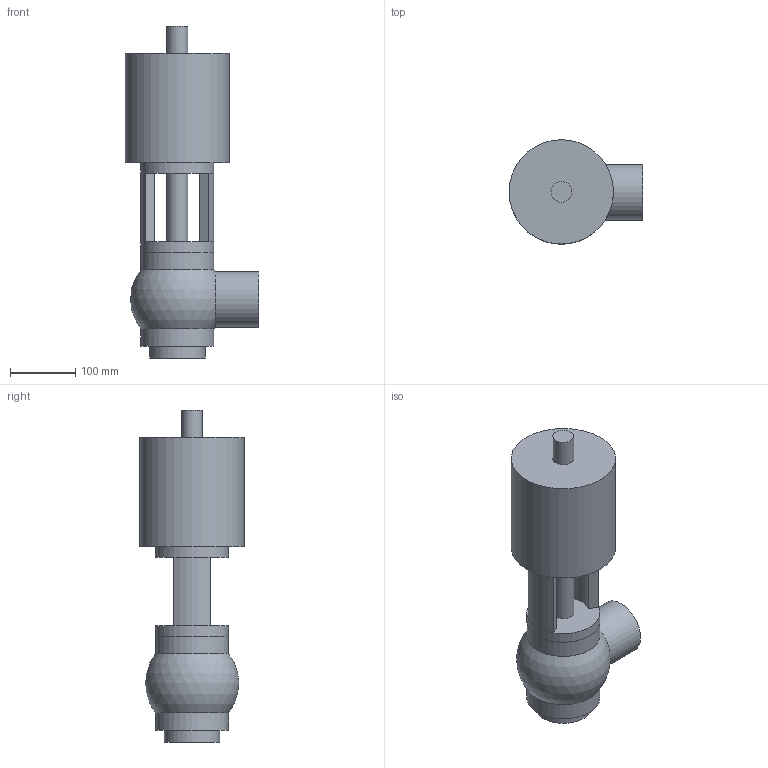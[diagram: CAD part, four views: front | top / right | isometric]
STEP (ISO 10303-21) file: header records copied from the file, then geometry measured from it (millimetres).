
FILE_DESCRIPTION(('FreeCAD Model'),'2;1');
FILE_NAME('/home/martin/Documents/proyect/valves/stp/valve_L_DN-80.step' ,'2018-01-12T21:56:52',('Author'),(''), 'Open CASCADE STEP processor 6.8','FreeCAD','Unknown');
FILE_SCHEMA(('AUTOMOTIVE_DESIGN_CC2 { 1 2 10303 214 -1 1 5 4 }'));
Length unit declared in the file: millimetre
Products named in the file (3): ASSEMBLY; valve_L_DN-80-body; valve_L_DN-80-head
Assembly tree (2 placements, depth 2):
  ASSEMBLY
    valve_L_DN-80-body
    valve_L_DN-80-head
Bounding box: 205 x 160 x 509 mm (x, y, z)
Volume: 4749799.7 mm3; surface area: 350162 mm2
Topology: 2 solids, 2 shells, 33 faces, 74 edges, 46 vertices
Faces by surface type: cylinder 16, plane 15, sphere 2
Full cylindrical faces by diameter (mm): 32 x2, 81 x2, 85 x2, 112 x4, 160 x1
Entity records: 2135 total; most frequent: CARTESIAN_POINT 431, DIRECTION 324, ORIENTED_EDGE 146, PCURVE 146, DEFINITIONAL_REPRESENTATION 146, LINE 135, VECTOR 135, AXIS2_PLACEMENT_3D 81
